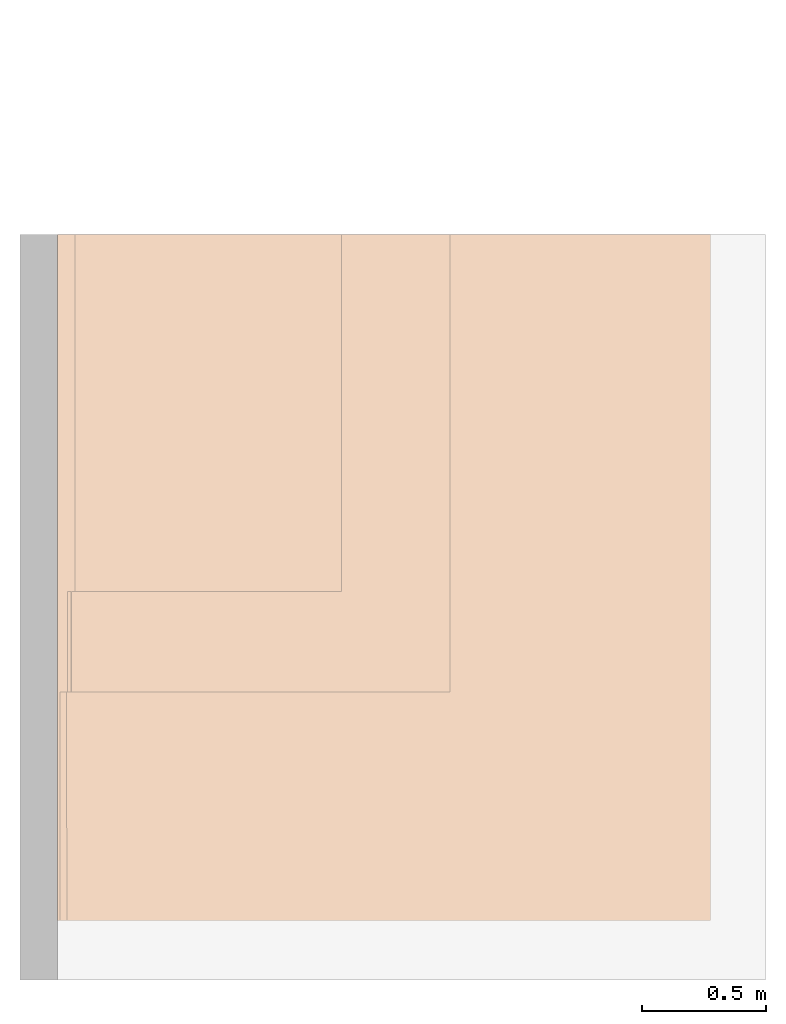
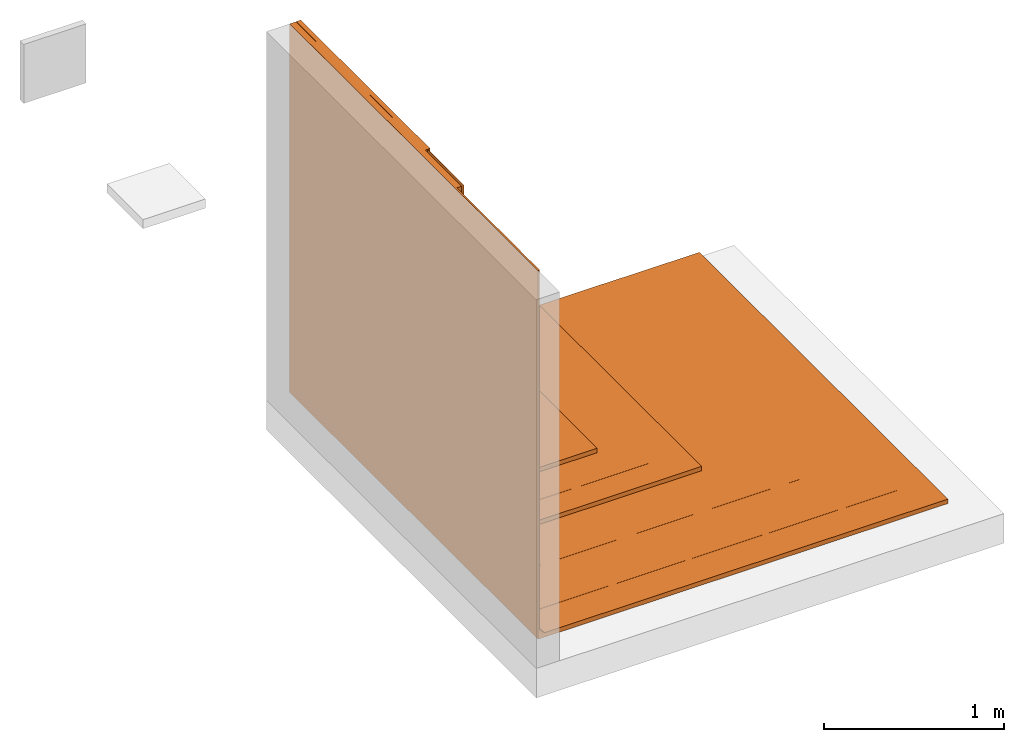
# One storey, part 2 of 2: 1 proxy.
"""IFC2X3 building model written with IfcOpenShell, lengths in metres."""

from ifc_helpers import new_model, entity, si_unit, converted_unit, derived_unit, direction, frame, frame_2d, origin, origin_2d_with_axis, place, context, subcontext, project, spatial, polyline, circle_curve, parameter, trimmed, segment, composite_curve, rectangle, outline, extrude, source, transform, mapped, material, material_list, type_object, type_shapes, element, save


model = new_model("IFC2X3")

# Units and contexts
model_context = context("Model", 3, precision=1e-05, world=origin(), true_north=direction((6.123031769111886e-17, 1.0)))
body_context = subcontext(model_context, "Body", "Model", "MODEL_VIEW")
ifc_project = project(units=[si_unit("LENGTHUNIT", "METRE"), si_unit("AREAUNIT", "SQUARE_METRE"), si_unit("VOLUMEUNIT", "CUBIC_METRE"), converted_unit("PLANEANGLEUNIT", "DEGREE", entity("IfcRatioMeasure", 0.017453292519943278), si_unit("PLANEANGLEUNIT", "RADIAN"), dimensions=[0, 0, 0, 0, 0, 0, 0]), si_unit("MASSUNIT", "GRAM", prefix="KILO"), derived_unit("MASSDENSITYUNIT", [(si_unit("MASSUNIT", "GRAM", prefix="KILO"), 1), (si_unit("LENGTHUNIT", "METRE"), -3)]), derived_unit("IONCONCENTRATIONUNIT", [(si_unit("MASSUNIT", "GRAM", prefix="KILO"), 1), (si_unit("LENGTHUNIT", "METRE"), -3)]), derived_unit("MOMENTOFINERTIAUNIT", [(si_unit("LENGTHUNIT", "METRE"), 4)]), si_unit("TIMEUNIT", "SECOND"), si_unit("FREQUENCYUNIT", "HERTZ"), si_unit("THERMODYNAMICTEMPERATUREUNIT", "DEGREE_CELSIUS"), derived_unit("THERMALTRANSMITTANCEUNIT", [(si_unit("MASSUNIT", "GRAM", prefix="KILO"), 1), (si_unit("THERMODYNAMICTEMPERATUREUNIT", "KELVIN"), -1), (si_unit("TIMEUNIT", "SECOND"), -3)]), derived_unit("THERMALCONDUCTANCEUNIT", [(si_unit("MASSUNIT", "GRAM", prefix="KILO"), 1), (si_unit("THERMODYNAMICTEMPERATUREUNIT", "KELVIN"), -1), (si_unit("TIMEUNIT", "SECOND"), -3), (si_unit("LENGTHUNIT", "METRE"), 1)]), derived_unit("VOLUMETRICFLOWRATEUNIT", [(si_unit("LENGTHUNIT", "METRE"), 3), (si_unit("TIMEUNIT", "SECOND"), -1)]), derived_unit("MASSFLOWRATEUNIT", [(si_unit("MASSUNIT", "GRAM", prefix="KILO"), 1), (si_unit("TIMEUNIT", "SECOND"), -1)]), derived_unit("ROTATIONALFREQUENCYUNIT", [(si_unit("TIMEUNIT", "SECOND"), -1)]), si_unit("ELECTRICCURRENTUNIT", "AMPERE"), si_unit("ELECTRICVOLTAGEUNIT", "VOLT"), si_unit("POWERUNIT", "WATT"), si_unit("FORCEUNIT", "NEWTON", prefix="KILO"), si_unit("ILLUMINANCEUNIT", "LUX"), si_unit("LUMINOUSFLUXUNIT", "LUMEN"), si_unit("LUMINOUSINTENSITYUNIT", "CANDELA"), derived_unit("USERDEFINED", [(si_unit("MASSUNIT", "GRAM", prefix="KILO"), -1), (si_unit("LENGTHUNIT", "METRE"), -2), (si_unit("TIMEUNIT", "SECOND"), 3), (si_unit("LUMINOUSFLUXUNIT", "LUMEN"), 1)]), derived_unit("USERDEFINED", [(si_unit("MASSUNIT", "GRAM", prefix="KILO"), 1), (si_unit("TIMEUNIT", "SECOND"), -3), (si_unit("LENGTHUNIT", "METRE"), 3), (si_unit("ELECTRICCURRENTUNIT", "AMPERE"), -2)]), derived_unit("SOUNDPOWERUNIT", [(si_unit("MASSUNIT", "GRAM", prefix="KILO"), 1), (si_unit("TIMEUNIT", "SECOND"), -3), (si_unit("LENGTHUNIT", "METRE"), 2)]), derived_unit("SOUNDPRESSUREUNIT", [(si_unit("MASSUNIT", "GRAM", prefix="KILO"), 1), (si_unit("LENGTHUNIT", "METRE"), -1), (si_unit("TIMEUNIT", "SECOND"), -2)]), derived_unit("LINEARVELOCITYUNIT", [(si_unit("LENGTHUNIT", "METRE"), 1), (si_unit("TIMEUNIT", "SECOND"), -1)]), si_unit("PRESSUREUNIT", "PASCAL"), derived_unit("USERDEFINED", [(si_unit("MASSUNIT", "GRAM", prefix="KILO"), 1), (si_unit("LENGTHUNIT", "METRE"), -2), (si_unit("TIMEUNIT", "SECOND"), -2)]), derived_unit("LINEARFORCEUNIT", [(si_unit("MASSUNIT", "GRAM", prefix="KILO"), 1), (si_unit("TIMEUNIT", "SECOND"), -2)]), derived_unit("PLANARFORCEUNIT", [(si_unit("MASSUNIT", "GRAM", prefix="KILO"), 1), (si_unit("LENGTHUNIT", "METRE"), -1), (si_unit("TIMEUNIT", "SECOND"), -2)]), derived_unit("SPECIFICHEATCAPACITYUNIT", [(si_unit("THERMODYNAMICTEMPERATUREUNIT", "KELVIN"), -1), (si_unit("LENGTHUNIT", "METRE"), 2), (si_unit("TIMEUNIT", "SECOND"), -2)]), derived_unit("HEATINGVALUEUNIT", [(si_unit("LENGTHUNIT", "METRE"), 2), (si_unit("TIMEUNIT", "SECOND"), -2)]), derived_unit("VAPORPERMEABILITYUNIT", [(si_unit("LENGTHUNIT", "METRE"), -1), (si_unit("TIMEUNIT", "SECOND"), 1)]), derived_unit("DYNAMICVISCOSITYUNIT", [(si_unit("MASSUNIT", "GRAM", prefix="KILO"), 1), (si_unit("TIMEUNIT", "SECOND"), -1), (si_unit("LENGTHUNIT", "METRE"), -1)]), derived_unit("THERMALEXPANSIONCOEFFICIENTUNIT", [(si_unit("THERMODYNAMICTEMPERATUREUNIT", "KELVIN"), -1)]), derived_unit("MODULUSOFELASTICITYUNIT", [(si_unit("MASSUNIT", "GRAM", prefix="KILO"), 1), (si_unit("LENGTHUNIT", "METRE"), -1), (si_unit("TIMEUNIT", "SECOND"), -2)]), derived_unit("ISOTHERMALMOISTURECAPACITYUNIT", [(si_unit("LENGTHUNIT", "METRE"), 3), (si_unit("MASSUNIT", "GRAM", prefix="KILO"), -1)]), derived_unit("MOISTUREDIFFUSIVITYUNIT", [(si_unit("TIMEUNIT", "SECOND"), -1), (si_unit("LENGTHUNIT", "METRE"), 2)])], contexts=[model_context])

# Site, building, storey
site_placement = place(None, origin())
site = spatial("IfcSite", under=ifc_project, at=site_placement, Name="Default", CompositionType="ELEMENT")
building_placement = place(site_placement, origin())
building = spatial("IfcBuilding", under=site, at=building_placement, CompositionType="ELEMENT")
storey_placement = place(building_placement, frame((0.0, 0.0, -0.0025237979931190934)))
storey = spatial("IfcBuildingStorey", under=building, at=storey_placement, Name="ARQ Térreo", CompositionType="ELEMENT", Elevation=-0.0025237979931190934)

# Proxy
ifc_material_1 = material(Name="#camada separadora")
ifc_material_2 = material(Name="#Proteção Mecânica")
ifc_material_3 = material(Name="#Tela Plástica")
ifc_material_4 = material(Name="#selante")
ifc_material_5 = material(Name="#argamassa")
ifc_material_6 = material(Name="#Vitpoli Eco")
ifc_material_7 = material(Name="#XPS")
ifc_material_8 = material(Name="#Mantex")
ifc_material_9 = material(Name="#Primer")
ifc_material_list = material_list([ifc_material_1, ifc_material_2, ifc_material_3, ifc_material_4, ifc_material_5, ifc_material_6, ifc_material_7, ifc_material_8, ifc_material_9])
building_element_proxy_type = type_object("IfcBuildingElementProxyType", Name="IMPER:IMPER", PredefinedType="NOTDEFINED", material=ifc_material_list)
shared_shape = source(origin(), body_context, "Body", "SweptSolid", [
    extrude(rectangle(XDim=1.3354525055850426, YDim=1.6692531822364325, at=origin_2d_with_axis()), frame((0.35673959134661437, -0.6887565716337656, 0.05850187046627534), z_axis=(0.0, 0.0, 1.0), x_axis=(-1.0, 0.0, 0.0)), (0.0, 0.0, 1.0), 0.0009999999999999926),
    extrude(outline(polyline([(-0.5558609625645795, -0.2658341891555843), (1.8831133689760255, -0.2658341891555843), (1.8831133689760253, -0.23583418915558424), (-0.5258609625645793, -0.23583418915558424), (-0.5384609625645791, -0.2358341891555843), (-0.5384609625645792, -0.21730822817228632), (-0.5258609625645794, -0.21730822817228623), (-0.5258609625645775, 0.836893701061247), (-0.5558609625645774, 0.8368937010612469), (-0.5558609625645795, -0.2658341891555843)])), frame((-0.04515247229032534, -1.28990395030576, 0.6153628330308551), z_axis=(0.0, 1.0, 0.0), x_axis=(0.0, 0.0, 1.0)), (0.0, 0.0, 1.0), 1.4357739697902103),
    extrude(rectangle(XDim=1.8399790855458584, YDim=0.0009999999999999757, at=origin_2d_with_axis()), frame((-0.29598666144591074, -0.7741195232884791, 0.08950187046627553), z_axis=(0.0, 0.0, 1.0), x_axis=(0.0, -1.0, 0.0)), (0.0, 0.0, 1.0), 2.408974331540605),
    extrude(rectangle(XDim=0.018525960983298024, YDim=1.4357739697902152, at=frame_2d((-1.734723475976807e-17, 0.0), x_axis=(1.0, 0.0))), frame((-0.2717236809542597, -0.5720169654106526, 0.07690187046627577), z_axis=(0.0, 0.0, 1.0), x_axis=(-1.0, 0.0, 0.0)), (0.0, 0.0, 1.0), 0.012599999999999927),
    extrude(rectangle(XDim=2.7600000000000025, YDim=0.009999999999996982, at=frame_2d((-3.3306690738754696e-16, 3.382710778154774e-17), x_axis=(1.0, 0.0))), frame((-0.3469704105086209, -1.2341299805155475, -0.0025237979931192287), z_axis=(0.0, 0.0, 1.0), x_axis=(0.0, -1.0, 0.0)), (0.0, 0.0, 1.0), 2.4999999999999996),
    extrude(outline(composite_curve([segment(polyline([(-1.023346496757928, -0.006000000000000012), (1.5650197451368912, -0.006000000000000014)]), True, "CONTINUOUS"), segment(polyline([(1.5650197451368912, -0.006000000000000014), (1.5650197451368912, 0.023999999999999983)]), True, "CONTINUOUS"), segment(polyline([(1.5650197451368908, 0.023999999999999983), (-1.0533464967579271, 0.023999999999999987)]), True, "CONTINUOUS"), segment(polyline([(-1.0533464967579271, 0.023999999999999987), (-1.0533464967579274, -0.035999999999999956)]), True, "CONTINUOUS"), segment(trimmed(circle_curve(frame_2d((-1.0233464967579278, -0.03600000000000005), x_axis=(1.0, 0.0)), 0.030000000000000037), [parameter(90.00000000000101)], [parameter(179.99999999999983)], True, "PARAMETER"), False, "CONTINUOUS")], self_intersect=False)), frame((0.711376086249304, -2.6141299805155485, 0.02147620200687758), z_axis=(0.0, 1.0, 0.0), x_axis=(1.0, 0.0, 0.0)), (0.0, 0.0, 1.0), 2.7600000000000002),
    extrude(outline(composite_curve([segment(polyline([(-0.5067507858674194, -0.5959097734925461), (-0.5067507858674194, 1.8443191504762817)]), True, "CONTINUOUS"), segment(polyline([(-0.5067507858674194, 1.8443191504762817), (-0.5077620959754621, 1.8443191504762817)]), True, "CONTINUOUS"), segment(polyline([(-0.5077620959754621, 1.8443191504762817), (-0.5077620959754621, -0.5955011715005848)]), True, "CONTINUOUS"), segment(trimmed(circle_curve(frame_2d((-0.4778677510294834, -0.5949196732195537), x_axis=(1.0, 0.0)), 0.029900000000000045), [parameter(181.11436447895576)], [parameter(268.32118641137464)], True, "PARAMETER"), True, "CONTINUOUS"), segment(polyline([(-0.47874372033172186, -0.6248068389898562), (1.4932492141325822, -0.6248068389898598)]), True, "CONTINUOUS"), segment(polyline([(1.4932492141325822, -0.6248068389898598), (1.4932492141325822, -0.6238068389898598)]), True, "CONTINUOUS"), segment(polyline([(1.4932492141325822, -0.6238068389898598), (-0.47872894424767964, -0.6238068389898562)]), True, "CONTINUOUS"), segment(trimmed(circle_curve(frame_2d((-0.4778677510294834, -0.5949196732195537), x_axis=(1.0, 0.0)), 0.028900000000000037), [parameter(181.96331038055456)], [parameter(268.29238608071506)], True, "PARAMETER"), False, "CONTINUOUS")], self_intersect=False)), frame((0.16589734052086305, -2.0388350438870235, 0.6531570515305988), z_axis=(0.0, -1.0, 0.0), x_axis=(1.0, 0.0, 0.0)), (0.0, 0.0, -1.0), 2.184705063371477),
    extrude(outline(composite_curve([segment(polyline([(-0.4310662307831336, 0.6883415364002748), (1.1084548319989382, 0.6883415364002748)]), True, "CONTINUOUS"), segment(polyline([(1.1084548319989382, 0.6883415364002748), (1.1084548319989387, 0.7174931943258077)]), True, "CONTINUOUS"), segment(polyline([(1.1084548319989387, 0.7174931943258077), (-0.43291117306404, 0.7174931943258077)]), True, "CONTINUOUS"), segment(trimmed(circle_curve(frame_2d((-0.4320499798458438, 0.6886060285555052), x_axis=(1.0, 0.0)), 0.028900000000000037), [parameter(91.70761391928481)], [parameter(178.03668961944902)], True, "PARAMETER"), True, "CONTINUOUS"), segment(polyline([(-0.46093301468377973, 0.6895961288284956), (-0.46093301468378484, -1.75063279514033)]), True, "CONTINUOUS"), segment(polyline([(-0.46093301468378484, -1.75063279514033), (-0.43106623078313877, -1.7506327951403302)]), True, "CONTINUOUS"), segment(polyline([(-0.43106623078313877, -1.7506327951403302), (-0.4310662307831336, 0.6883415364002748)]), True, "CONTINUOUS")], self_intersect=False)), frame((0.12007956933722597, -1.6941090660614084, 0.7468434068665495), z_axis=(0.0, 1.0, 0.0), x_axis=(1.0, 0.0, 0.0)), (0.0, 0.0, 1.0), 1.8399790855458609),
    extrude(outline(composite_curve([segment(polyline([(0.0019284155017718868, -0.026496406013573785), (0.058734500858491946, -0.026496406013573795)]), True, "CONTINUOUS"), segment(polyline([(0.058734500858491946, -0.026496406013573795), (0.05873450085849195, -0.0256850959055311)]), True, "CONTINUOUS"), segment(polyline([(0.05873450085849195, -0.0256850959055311), (-0.0008135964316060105, -0.02568509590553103)]), True, "CONTINUOUS"), segment(trimmed(circle_curve(frame_2d((0.00017821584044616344, 0.0032979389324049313), x_axis=(0.0, 1.0)), 0.029000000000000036), [parameter(91.70466699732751)], [parameter(178.0400778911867)], True, "PARAMETER"), False, "CONTINUOUS"), segment(polyline([(-0.0288089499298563, 0.002435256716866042), (-0.028808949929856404, 0.049314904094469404)]), True, "CONTINUOUS"), segment(polyline([(-0.028808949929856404, 0.049314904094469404), (-0.030482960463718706, 0.049314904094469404)]), True, "CONTINUOUS"), segment(polyline([(-0.030482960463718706, 0.049314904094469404), (-0.030482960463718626, 0.0032979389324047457)]), True, "CONTINUOUS"), segment(trimmed(circle_curve(frame_2d((-0.0005829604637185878, 0.0032979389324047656), x_axis=(0.0, 1.0)), 0.029900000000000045), [parameter(90.00000000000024)], [parameter(184.8180926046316)], True, "PARAMETER"), True, "CONTINUOUS")], self_intersect=False)), frame((-0.31526834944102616, -2.2417938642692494, 0.05805916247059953), z_axis=(0.0, 1.0, 0.0), x_axis=(0.0, 0.0, 1.0)), (0.0, 0.0, 1.0), 2.3876638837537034),
    extrude(outline(composite_curve([segment(polyline([(-0.6105924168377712, -0.5959650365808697), (-0.6105924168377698, 1.8448448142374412)]), True, "CONTINUOUS"), segment(polyline([(-0.6105924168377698, 1.8448448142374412), (-0.611603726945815, 1.8448448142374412)]), True, "CONTINUOUS"), segment(polyline([(-0.611603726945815, 1.8448448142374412), (-0.6116037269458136, -0.595155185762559)]), True, "CONTINUOUS"), segment(trimmed(circle_curve(frame_2d((-0.5816037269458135, -0.595155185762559), x_axis=(1.0, 0.0)), 0.030000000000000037), [parameter(179.99999999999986)], [parameter(269.9999999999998)], True, "PARAMETER"), True, "CONTINUOUS"), segment(polyline([(-0.5816037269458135, -0.625155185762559), (1.804409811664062, -0.6251551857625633)]), True, "CONTINUOUS"), segment(polyline([(1.804409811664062, -0.6251551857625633), (1.804409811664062, -0.6241295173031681)]), True, "CONTINUOUS"), segment(polyline([(1.804409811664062, -0.6241295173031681), (-0.5828236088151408, -0.6241295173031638)]), True, "CONTINUOUS"), segment(trimmed(circle_curve(frame_2d((-0.5816037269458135, -0.595155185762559), x_axis=(1.0, 0.0)), 0.029000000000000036), [parameter(181.60024369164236)], [parameter(267.58914788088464)], True, "PARAMETER"), False, "CONTINUOUS")], self_intersect=False)), frame((0.2696333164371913, -2.4013933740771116, 0.6526313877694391), z_axis=(0.0, -1.0, 0.0), x_axis=(1.0, 0.0, 0.0)), (0.0, 0.0, -1.0), 2.5472633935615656),
])
type_shapes(building_element_proxy_type, [shared_shape])
proxy_placement = place(storey_placement, frame((0.0, 0.0, 0.0025237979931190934)))
element("IfcBuildingElementProxy", 1, at=proxy_placement, inside=storey, type_object=building_element_proxy_type, material=ifc_material_list, Name="IMPER:IMPER:IMPER : IMPER:IMPER", ObjectType="IMPER:IMPER:IMPER : IMPER:IMPER", context=body_context, shape_type="MappedRepresentation", body=[
    mapped(shared_shape, transform((0.0, 0.0, 0.0), scale=1.0)),
])

save(model, "model.ifc")
